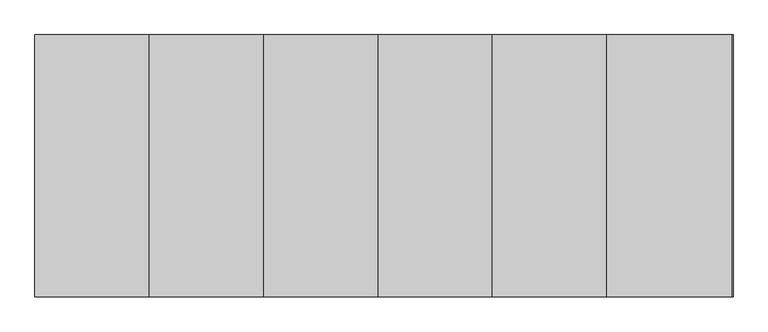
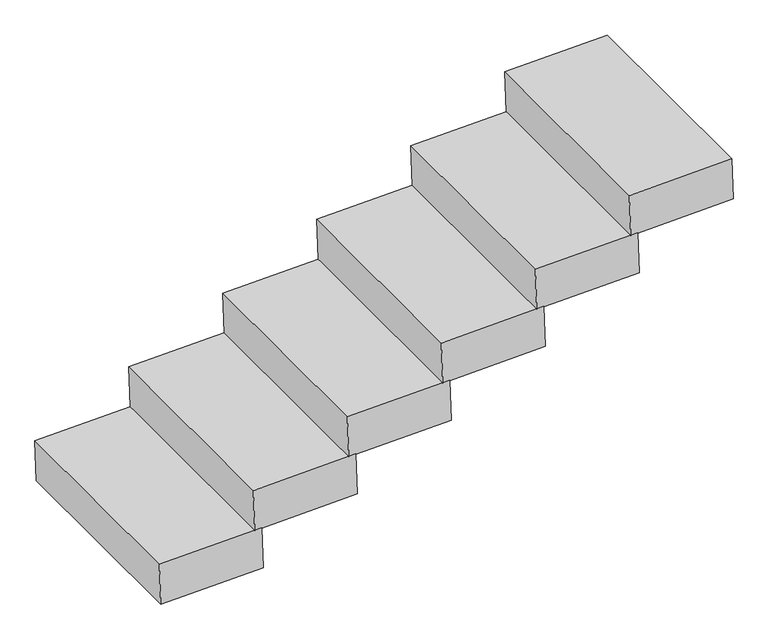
"""IFC4 building model written with IfcOpenShell, lengths in millimetres: stair flight geometry, Blockstufe - vollkantig - B 36cm, H 15cm."""

from ifc_helpers import new_model, si_unit, frame, origin, place, context, project, spatial, polyline, outline, extrude, source, transform, mapped, element, save


def stair_flight_f215e563(model_context):
    return source(origin(), model_context, "Body", "SweptSolid", [
        extrude(outline(polyline([(0.0, -360.0), (0.0, 0.0), (756.9091921, 0.0), (756.9091921, -360.0), (0.0, -360.0)])), frame((93.9710847, -2825.8978657, 43.2), z_axis=(-0.02792163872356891, 0.0, 0.9996101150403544), x_axis=(0.0, 1.0, 0.0)), (0.0, 0.0, 1.0), 150.0),
        extrude(outline(polyline([(0.0, -360.0), (0.0, 0.0), (756.9091921, 0.0), (756.9091921, -360.0), (0.0, -360.0)])), frame((423.9710847, -2825.8978657, 201.4), z_axis=(-0.02792163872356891, 0.0, 0.9996101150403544), x_axis=(0.0, 1.0, 0.0)), (0.0, 0.0, 1.0), 150.0),
        extrude(outline(polyline([(0.0, -360.0), (0.0, 0.0), (756.9091921, 0.0), (756.9091921, -360.0), (0.0, -360.0)])), frame((753.9710847, -2825.8978657, 359.6), z_axis=(-0.02792163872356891, 0.0, 0.9996101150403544), x_axis=(0.0, 1.0, 0.0)), (0.0, 0.0, 1.0), 150.0),
        extrude(outline(polyline([(0.0, -360.0), (0.0, 0.0), (756.9091921, 0.0), (756.9091921, -360.0), (0.0, -360.0)])), frame((1083.9710847, -2825.8978657, 517.8), z_axis=(-0.02792163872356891, 0.0, 0.9996101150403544), x_axis=(0.0, 1.0, 0.0)), (0.0, 0.0, 1.0), 150.0),
        extrude(outline(polyline([(0.0, -360.0), (0.0, 0.0), (756.9091921, 0.0), (756.9091921, -360.0), (0.0, -360.0)])), frame((1413.9710847, -2825.8978657, 676.0), z_axis=(-0.02792163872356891, 0.0, 0.9996101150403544), x_axis=(0.0, 1.0, 0.0)), (0.0, 0.0, 1.0), 150.0),
        extrude(outline(polyline([(0.0, -360.0), (0.0, 0.0), (756.9091921, 0.0), (756.9091921, -360.0), (0.0, -360.0)])), frame((1743.9710847, -2825.8978657, 834.2), z_axis=(-0.02792163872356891, 0.0, 0.9996101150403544), x_axis=(0.0, 1.0, 0.0)), (0.0, 0.0, 1.0), 150.0),
    ])


if __name__ == "__main__":
    model = new_model("IFC4")
    model_context = context("Model", 3, world=origin())
    ifc_project = project(units=[si_unit("LENGTHUNIT", "METRE", prefix="MILLI")], contexts=[model_context])
    site = spatial("IfcSite", under=ifc_project)
    building = spatial("IfcBuilding", under=site)
    placement = place(None, origin())
    stair_flight_shape = stair_flight_f215e563(model_context)
    element("IfcStairFlight", 1, ObjectType="Blockstufe - vollkantig - B 36cm, H 15cm", at=placement, inside=building, context=model_context, shape_type="MappedRepresentation", body=[
        mapped(stair_flight_shape, transform((0.0, 0.0, 0.0), x_axis=(1.0, 0.0, 0.0), y_axis=(0.0, 1.0, 0.0), z_axis=(0.0, 0.0, 1.0))),
    ])
    save(model, "model.ifc")
